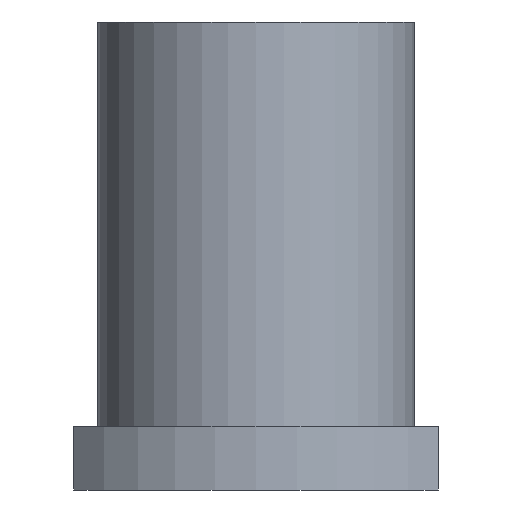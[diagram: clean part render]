
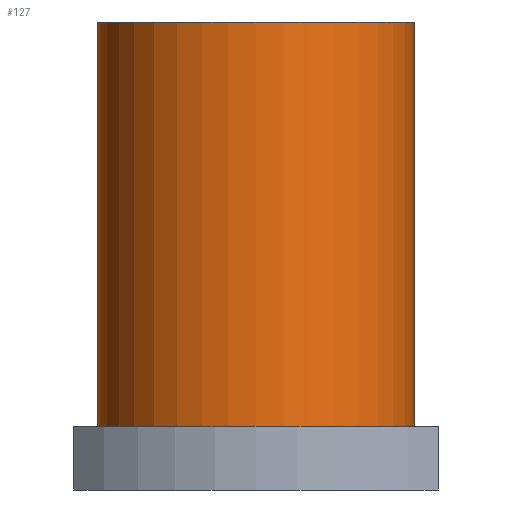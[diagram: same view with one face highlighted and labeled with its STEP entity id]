
A CAD part, front view. The second image highlights one B-rep face of the part: STEP entity #127.
In plain terms, the highlighted cylindrical face has radius 20 mm (diameter 40 mm), a partial arc.
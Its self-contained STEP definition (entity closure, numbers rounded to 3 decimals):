
#86=CARTESIAN_POINT('',(18.,-15.555,0.0));
#87=DIRECTION('',(0.0,0.0,1.0));
#88=DIRECTION('',(-1.0,0.0,0.0));
#89=AXIS2_PLACEMENT_3D('',#86,#87,#88);
#90=CYLINDRICAL_SURFACE('',#89,20.0);
#91=CARTESIAN_POINT('',(-2.,-15.555,8.0));
#92=VERTEX_POINT('',#91);
#93=CARTESIAN_POINT('',(-2.,-15.555,59.0));
#94=VERTEX_POINT('',#93);
#95=CARTESIAN_POINT('',(-2.,-15.555,8.0));
#96=DIRECTION('',(0.0,0.0,1.0));
#97=VECTOR('',#96,51.0);
#98=LINE('',#95,#97);
#99=EDGE_CURVE('',#92,#94,#98,.T.);
#100=ORIENTED_EDGE('',*,*,#99,.F.);
#101=CARTESIAN_POINT('',(38.,-15.555,8.0));
#102=VERTEX_POINT('',#101);
#103=CARTESIAN_POINT('',(18.,-15.555,8.0));
#104=DIRECTION('',(0.0,0.0,-1.0));
#105=DIRECTION('',(-1.0,0.0,0.0));
#106=AXIS2_PLACEMENT_3D('',#103,#104,#105);
#107=CIRCLE('',#106,20.0);
#108=EDGE_CURVE('',#102,#92,#107,.T.);
#109=ORIENTED_EDGE('',*,*,#108,.F.);
#110=CARTESIAN_POINT('',(38.,-15.555,59.0));
#111=VERTEX_POINT('',#110);
#112=CARTESIAN_POINT('',(38.,-15.555,59.0));
#113=DIRECTION('',(0.0,0.0,-1.0));
#114=VECTOR('',#113,51.0);
#115=LINE('',#112,#114);
#116=EDGE_CURVE('',#111,#102,#115,.T.);
#117=ORIENTED_EDGE('',*,*,#116,.F.);
#118=CARTESIAN_POINT('',(18.,-15.555,59.0));
#119=DIRECTION('',(0.0,0.0,-1.0));
#120=DIRECTION('',(-1.0,0.0,0.0));
#121=AXIS2_PLACEMENT_3D('',#118,#119,#120);
#122=CIRCLE('',#121,20.0);
#123=EDGE_CURVE('',#111,#94,#122,.T.);
#124=ORIENTED_EDGE('',*,*,#123,.T.);
#125=EDGE_LOOP('',(#100,#109,#117,#124));
#126=FACE_OUTER_BOUND('',#125,.T.);
#127=ADVANCED_FACE('',(#126),#90,.T.);
